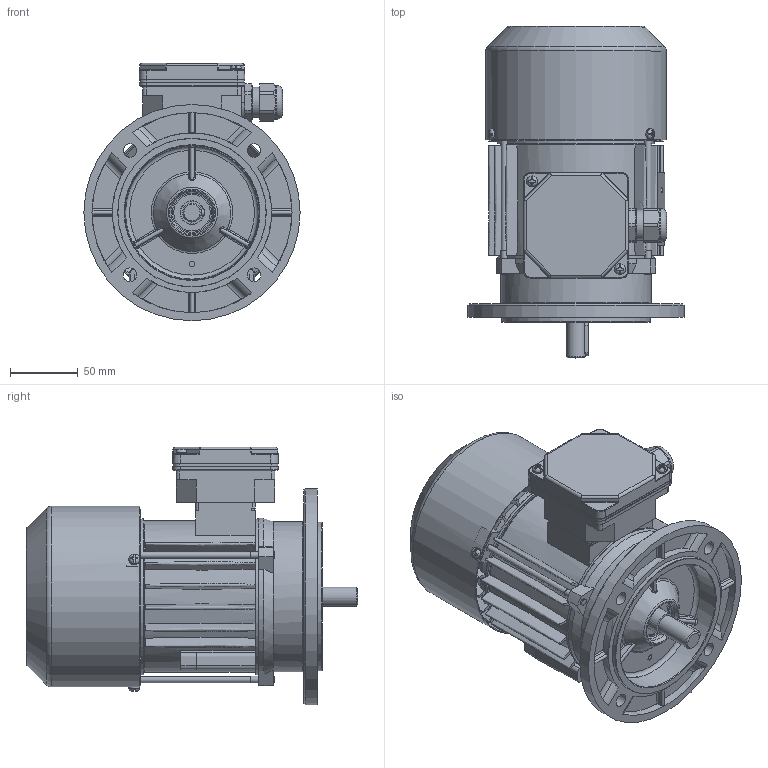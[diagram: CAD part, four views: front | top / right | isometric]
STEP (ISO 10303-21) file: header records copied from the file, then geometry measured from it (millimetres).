
FILE_DESCRIPTION(/* description */ ('Unknown'),/* implementation_level */ '2;1');
FILE_NAME(/* name */ '2SIEK71-8B',/* time_stamp */ '2021-04-13T15:21:12+02:00',/* author */ ('Unknown'),/* organization */ ('Unknown'),/* preprocessor_version */ 'ST-DEVELOPER v16.7',/* originating_system */ 'Solid Edge',/* authorisation */ 'Unknown');
FILE_SCHEMA (('AUTOMOTIVE_DESIGN {1 0 10303 214 3 1 1}'));
Products named in the file (1): 2SIEK71-8B
Bounding box: 159.98 x 245.47 x 190.48 mm (x, y, z)
Volume: 663793.7 mm3; surface area: 403367.4 mm2
Topology: 1 solids, 1 shells, 2232 faces, 6281 edges, 4045 vertices
Faces by surface type: plane 907, cylinder 659, bspline 338, torus 175, cone 129, sphere 24
Full cylindrical faces by diameter (mm): 2 x2, 2.4 x2, 3.7 x4, 3.8 x4, 4 x3, 4.6 x3, 4.8 x2, 5 x8, 5.499 x3, 6.999 x1, 7.999 x9, 9.999 x4, 13.999 x1, 15.898 x1, 16.098 x1, 16.498 x1, 16.998 x2, 17.398 x2, 21.998 x2, 22.298 x1, 22.498 x1, 22.998 x1, 23.098 x1, 24.496 x4, 24.997 x1, 26.997 x1, 27.997 x1, 30.997 x1, 32.499 x4, 35.996 x2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
Entity records: 80507 total; most frequent: CARTESIAN_POINT 26854, ORIENTED_EDGE 11852, DIRECTION 10217, EDGE_CURVE 5926, VERTEX_POINT 3919, AXIS2_PLACEMENT_3D 3871, FACE_BOUND 2647, EDGE_LOOP 2643
